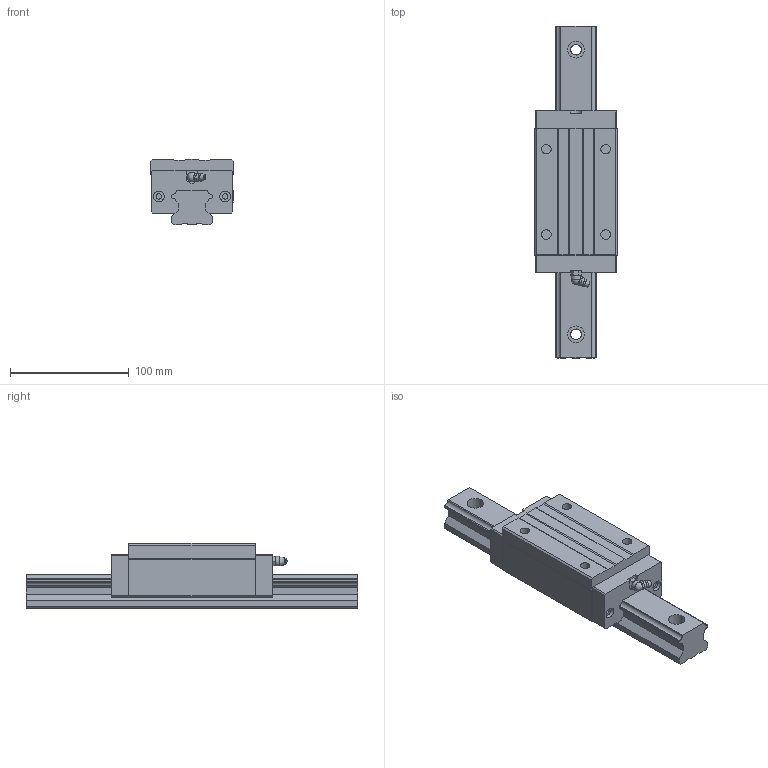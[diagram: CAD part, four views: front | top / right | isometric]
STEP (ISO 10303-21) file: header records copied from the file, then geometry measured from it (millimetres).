
FILE_DESCRIPTION(/* description */ (''),/* implementation_level */ '2;1');
FILE_NAME(/* name */ 'MSA35LS',/* time_stamp */ '2005-10-07T18:10:31+08:00',/* author */ (''),/* organization */ (''),/* preprocessor_version */ 'ST-DEVELOPER v9',/* originating_system */ 'UGS - NX 3.0',/* authorisation */ '');
FILE_SCHEMA (('CONFIG_CONTROL_DESIGN'));
Length unit declared in the file: millimetre
Products named in the file (1): john2E70xb2m
Bounding box: 70 x 280 x 55 mm (x, y, z)
Volume: 553558.4 mm3; surface area: 86336.2 mm2
Topology: 3 solids, 3 shells, 185 faces, 489 edges, 322 vertices
Faces by surface type: plane 143, cylinder 31, torus 7, sphere 2, cone 1, bspline 1
Full cylindrical faces by diameter (mm): 4.5 x4, 8 x5, 9 x8, 14 x4
Entity records: 5739 total; most frequent: CARTESIAN_POINT 1130, DIRECTION 916, ORIENTED_EDGE 914, EDGE_CURVE 457, LINE 332, VECTOR 332, VERTEX_POINT 316, AXIS2_PLACEMENT_3D 292
